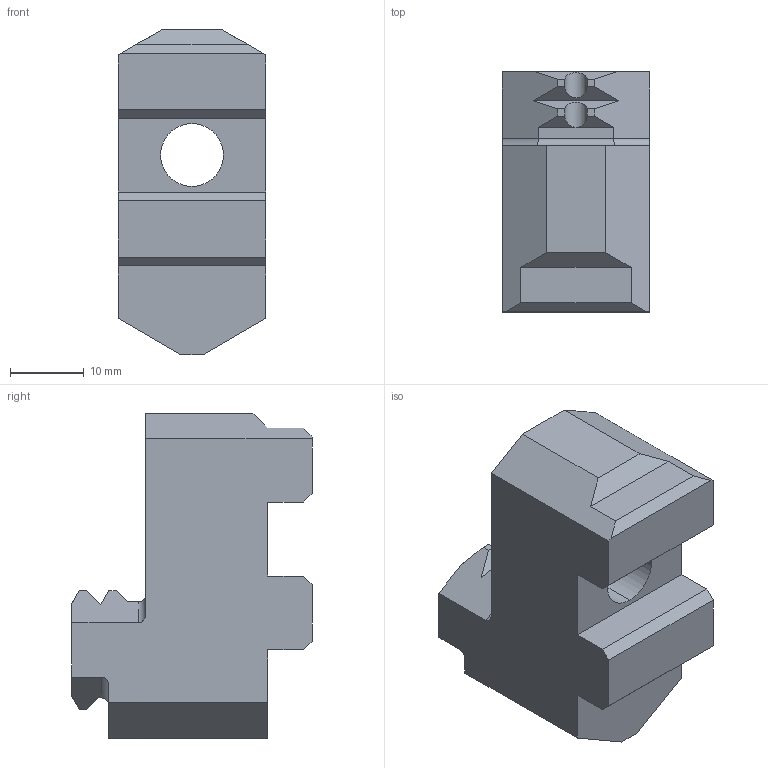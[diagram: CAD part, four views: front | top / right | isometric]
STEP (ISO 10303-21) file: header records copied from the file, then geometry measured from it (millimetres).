
FILE_DESCRIPTION (( 'STEP AP203' ), '1' );
FILE_NAME ('FU16.STEP', '2013-12-06T10:28:41', ( '' ), ( '' ), 'SwSTEP 2.0', 'SolidWorks 2011', '' );
FILE_SCHEMA (( 'CONFIG_CONTROL_DESIGN' ));
Length unit declared in the file: millimetre
Products named in the file (1): FU16
Bounding box: 20 x 32.5 x 44 mm (x, y, z)
Volume: 16485.2 mm3; surface area: 5541.6 mm2
Topology: 1 solids, 1 shells, 63 faces, 171 edges, 110 vertices
Faces by surface type: plane 45, cylinder 16, cone 2
Entity records: 2012 total; most frequent: CARTESIAN_POINT 394, ORIENTED_EDGE 338, DIRECTION 292, EDGE_CURVE 169, LINE 140, VECTOR 140, VERTEX_POINT 110, AXIS2_PLACEMENT_3D 76
